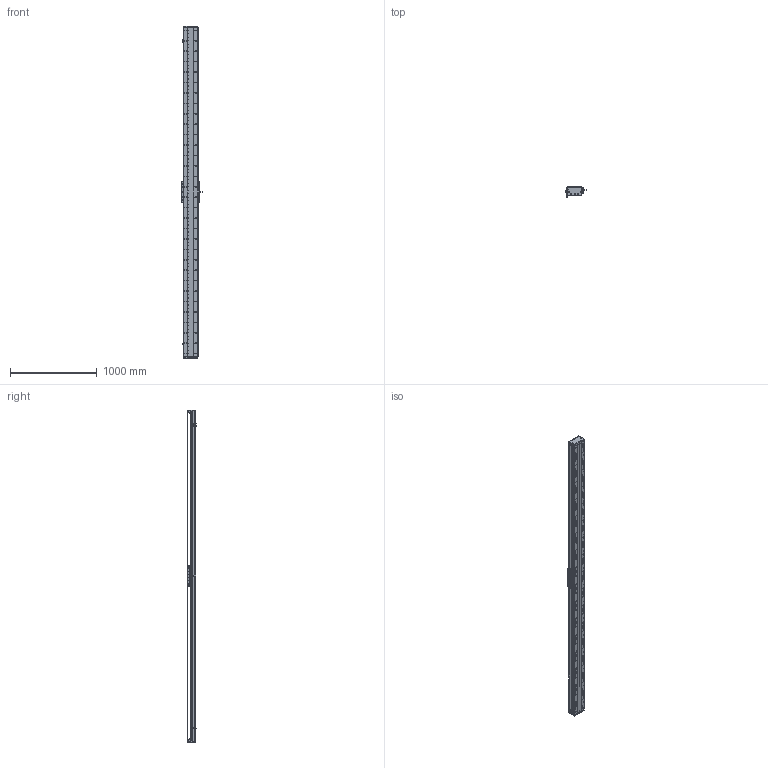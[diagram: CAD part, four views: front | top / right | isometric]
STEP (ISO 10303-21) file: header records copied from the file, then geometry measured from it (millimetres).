
FILE_DESCRIPTION (( 'STEP AP203' ), '1' );
FILE_NAME ('DA-C165-C3-T3480-C010-0.2 直线电机.STEP', '2023-06-13T09:04:14', ( '微软用户' ), ( '微软中国' ), 'SwSTEP 2.0', 'SolidWorks 2019', '' );
FILE_SCHEMA (( 'CONFIG_CONTROL_DESIGN' ));
Length unit declared in the file: millimetre
Products named in the file (18): 复件 CU165钢带组件^DA-C165-C3-T-C010-0.2-N 直线电机; 复件 六角薄螺母 M3^DA-C165-C3-T-C010-0.2-N 直线电机_GB_FASTENER_NUT_STNAB M3-C; 复件 XD-U-02L 磁栅尺^DA-C165-C3-T-C010-0.2-N 直线电机_T; 复件 DA165-GYP-00 光电感应片^DA-C165-C3-T-C010-0.2-N 直线电机; 复件 DA165-GD-DG-H-00 端盖^复件 CU165钢带组件_DA-C165-C3-T-C010-0.2-N 直线电机; DA-C165-C3-T3480-C010-0.2 眻盄萇儂; 珨极趙賑雄怢啣C3-wf; IU-CU165-L 菁釱絳寢; 复件 DA95-HXJ-00 缓冲橡胶^DA-C165-C3-T-C010-0.2-N 直线电机; 葩璃 CKM03-W075-C1C2-TP-3.0^DA-C165-C3-T-C010-0.2-N 眻盄萇儂; 葩璃 PM-T45^DA-C165-C3-T-C010-0.2-N 眻盄萇儂; 复件 CU165 底座^IU-CU165-L 底座导轨_L3780; 复件 DA165-GD-1860-002-00 钢带盖板^复件 CU165钢带组件_DA-C165-C3-T-C010-0.2-N 直线电机; 复件 DMA-010-0.2 读数头^DA-C165-C3-T-C010-0.2-N 直线电机; 复件 DA165-GDYK-00 钢带压块^复件 CU165钢带组件_DA-C165-C3-T-C010-0.2-N 直线电机; 复件 DA165-GDLK-00 钢带拉块^复件 CU165钢带组件_DA-C165-C3-T-C010-0.2-N 直线电机; 葩璃 CKM01-W075-TRL^DA-C165-C3-T-C010-0.2-N 眻盄萇儂; 葩璃 DA95-GT-T-00^IU-CU165-L 菁釱絳寢_T
Assembly tree (35 placements, depth 3):
  DA-C165-C3-T3480-C010-0.2 眻盄萇儂
    IU-CU165-L 菁釱絳寢
      复件 CU165 底座^IU-CU165-L 底座导轨_L3780
      葩璃 DA95-GT-T-00^IU-CU165-L 菁釱絳寢_T  x4
    复件 XD-U-02L 磁栅尺^DA-C165-C3-T-C010-0.2-N 直线电机_T
    葩璃 PM-T45^DA-C165-C3-T-C010-0.2-N 眻盄萇儂  x3
    葩璃 CKM01-W075-TRL^DA-C165-C3-T-C010-0.2-N 眻盄萇儂
    复件 CU165钢带组件^DA-C165-C3-T-C010-0.2-N 直线电机
      复件 DA165-GD-DG-H-00 端盖^复件 CU165钢带组件_DA-C165-C3-T-C010-0.2-N 直线电机  x2
      复件 DA165-GDYK-00 钢带压块^复件 CU165钢带组件_DA-C165-C3-T-C010-0.2-N 直线电机  x2
      复件 DA165-GD-1860-002-00 钢带盖板^复件 CU165钢带组件_DA-C165-C3-T-C010-0.2-N 直线电机
      复件 DA165-GDLK-00 钢带拉块^复件 CU165钢带组件_DA-C165-C3-T-C010-0.2-N 直线电机  x2
    复件 DA95-HXJ-00 缓冲橡胶^DA-C165-C3-T-C010-0.2-N 直线电机  x4
    复件 DA165-GYP-00 光电感应片^DA-C165-C3-T-C010-0.2-N 直线电机
    复件 DMA-010-0.2 读数头^DA-C165-C3-T-C010-0.2-N 直线电机
    葩璃 CKM03-W075-C1C2-TP-3.0^DA-C165-C3-T-C010-0.2-N 眻盄萇儂
    复件 六角薄螺母 M3^DA-C165-C3-T-C010-0.2-N 直线电机_GB_FASTENER_NUT_STNAB M3-C  x8
    珨极趙賑雄怢啣C3-wf
Bounding box: 233 x 111.45 x 3820 mm (x, y, z)
Volume: 20826792.1 mm3; surface area: 6318906.8 mm2
Topology: 72 solids, 122 shells, 4962 faces, 14751 edges, 9414 vertices
Faces by surface type: cylinder 3080, plane 1256, cone 576, torus 46, sphere 4
Entity records: 174163 total; most frequent: CARTESIAN_POINT 49881, ORIENTED_EDGE 26254, DIRECTION 24919, EDGE_CURVE 13127, AXIS2_PLACEMENT_3D 9628, VERTEX_POINT 8602, EDGE_LOOP 5995, VECTOR 5663
